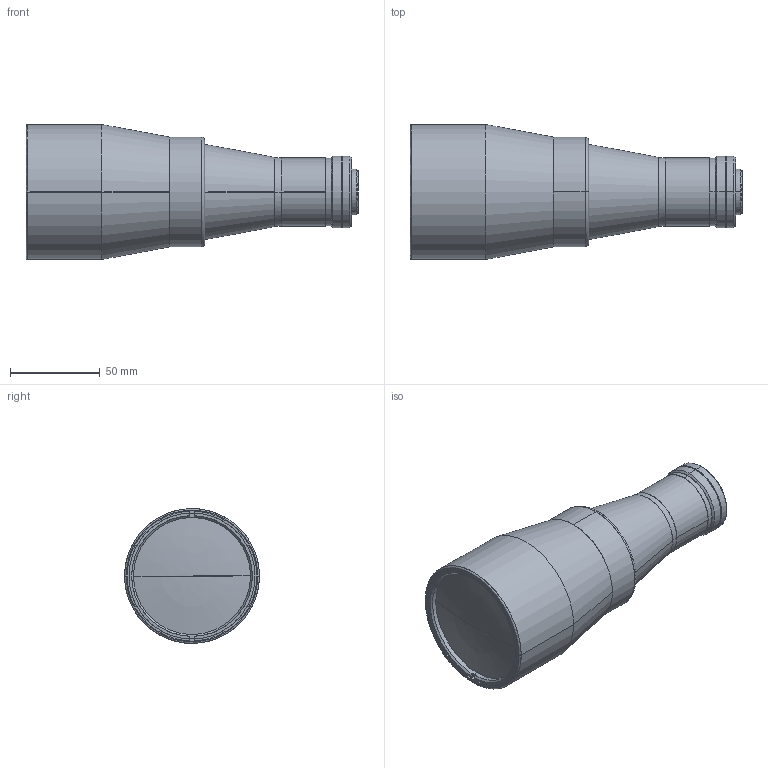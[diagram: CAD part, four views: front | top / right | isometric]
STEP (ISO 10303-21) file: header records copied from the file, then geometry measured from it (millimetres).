
FILE_DESCRIPTION(('LS-TCL-0139'),'2;1');
FILE_NAME('LS-TCL-0139.stp','2026-10-15T21:54:07',('LumaSpec Vision'),('LumaSpec Vision'),'LumaSpec Vision','LumaSpec Vision','');
FILE_SCHEMA(('AUTOMOTIVE_DESIGN { 1 0 10303 214 1 1 1 1 }'));
Length unit declared in the file: millimetre
Products named in the file (77): LumaSpec Vision
Assembly tree (76 placements, depth 2):
  LumaSpec Vision
    LumaSpec Vision
    LumaSpec Vision
    LumaSpec Vision
    LumaSpec Vision
    LumaSpec Vision
    LumaSpec Vision
    LumaSpec Vision
    LumaSpec Vision
    LumaSpec Vision
    LumaSpec Vision
    LumaSpec Vision
    LumaSpec Vision
    LumaSpec Vision
    LumaSpec Vision
    LumaSpec Vision
    LumaSpec Vision
    LumaSpec Vision
    LumaSpec Vision
    LumaSpec Vision
    LumaSpec Vision
    LumaSpec Vision
    LumaSpec Vision
    LumaSpec Vision
    LumaSpec Vision
    LumaSpec Vision
    LumaSpec Vision
    LumaSpec Vision
    LumaSpec Vision
    LumaSpec Vision
    LumaSpec Vision
    LumaSpec Vision
    LumaSpec Vision
    LumaSpec Vision
    LumaSpec Vision
    LumaSpec Vision
    LumaSpec Vision
    LumaSpec Vision
    LumaSpec Vision
    LumaSpec Vision
    LumaSpec Vision
    LumaSpec Vision
    LumaSpec Vision
    LumaSpec Vision
    LumaSpec Vision
    LumaSpec Vision
    LumaSpec Vision
    LumaSpec Vision
    LumaSpec Vision
    LumaSpec Vision
    LumaSpec Vision
    LumaSpec Vision
    LumaSpec Vision
    LumaSpec Vision
    LumaSpec Vision
    LumaSpec Vision
    LumaSpec Vision
    LumaSpec Vision
    LumaSpec Vision
    LumaSpec Vision
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Bounding box: 184.52 x 75 x 75 mm (x, y, z)
Surface area: 49542.2 mm2 (no closed solid volume)
Topology: 0 solids, 76 shells, 76 faces, 1994 edges, 1993 vertices
Faces by surface type: revolution 50, bspline 26
Entity records: 32193 total; most frequent: CARTESIAN_POINT 13606, B_SPLINE_CURVE_WITH_KNOTS 3730, ORIENTED_EDGE 1993, EDGE_CURVE 1993, VERTEX_POINT 1993, SURFACE_CURVE 1993, PCURVE 1993, DEFINITIONAL_REPRESENTATION 1993
